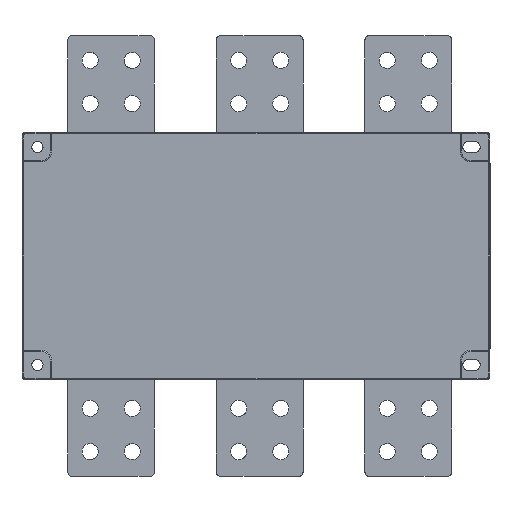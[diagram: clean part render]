
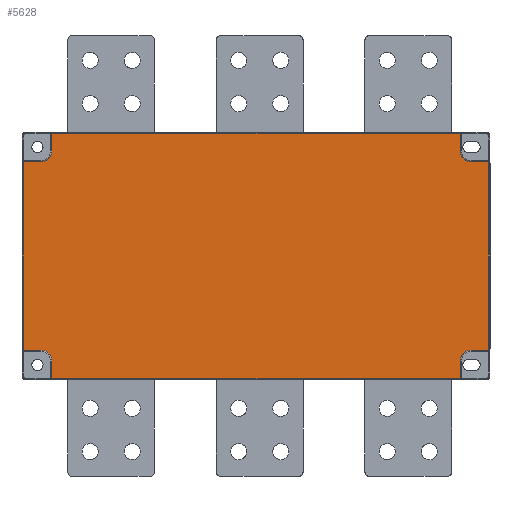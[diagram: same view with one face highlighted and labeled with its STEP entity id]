
A CAD part, front view. The second image highlights one B-rep face of the part: STEP entity #5628.
In plain terms, the highlighted planar face has unit normal (0, -1, 0).
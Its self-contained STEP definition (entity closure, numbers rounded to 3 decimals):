
#2423=DIRECTION('',(0.,0.,1.));
#2424=VECTOR('',#2423,14.);
#2425=CARTESIAN_POINT('',(-165.,0.,-99.));
#2426=LINE('',#2425,#2424);
#2427=CARTESIAN_POINT('',(-174.,0.,-85.));
#2428=DIRECTION('',(0.,-1.,0.));
#2429=DIRECTION('',(1.,0.,0.));
#2430=AXIS2_PLACEMENT_3D('',#2427,#2428,#2429);
#2432=DIRECTION('',(1.,0.,0.));
#2433=VECTOR('',#2432,14.);
#2434=CARTESIAN_POINT('',(-188.,0.,76.));
#2435=LINE('',#2434,#2433);
#2436=CARTESIAN_POINT('',(-174.,0.,85.));
#2437=DIRECTION('',(0.,-1.,0.));
#2438=DIRECTION('',(0.,0.,-1.));
#2439=AXIS2_PLACEMENT_3D('',#2436,#2437,#2438);
#2441=DIRECTION('',(0.,0.,-1.));
#2442=VECTOR('',#2441,14.);
#2443=CARTESIAN_POINT('',(165.,0.,99.));
#2444=LINE('',#2443,#2442);
#2445=CARTESIAN_POINT('',(174.,0.,85.));
#2446=DIRECTION('',(0.,-1.,0.));
#2447=DIRECTION('',(-1.,0.,0.));
#2448=AXIS2_PLACEMENT_3D('',#2445,#2446,#2447);
#2450=DIRECTION('',(-1.,0.,0.));
#2451=VECTOR('',#2450,14.);
#2452=CARTESIAN_POINT('',(188.,0.,-76.));
#2453=LINE('',#2452,#2451);
#2454=CARTESIAN_POINT('',(174.,0.,-85.));
#2455=DIRECTION('',(0.,-1.,0.));
#2456=DIRECTION('',(0.,0.,1.));
#2457=AXIS2_PLACEMENT_3D('',#2454,#2455,#2456);
#2471=DIRECTION('',(1.,0.,0.));
#2472=VECTOR('',#2471,330.);
#2473=CARTESIAN_POINT('',(-165.,0.,-99.));
#2474=LINE('',#2473,#2472);
#3839=DIRECTION('',(-1.,0.,0.));
#3840=VECTOR('',#3839,14.);
#3841=CARTESIAN_POINT('',(188.,0.,76.));
#3842=LINE('',#3841,#3840);
#3863=DIRECTION('',(0.,0.,1.));
#3864=VECTOR('',#3863,152.);
#3865=CARTESIAN_POINT('',(188.,0.,-76.));
#3866=LINE('',#3865,#3864);
#3929=DIRECTION('',(0.,0.,1.));
#3930=VECTOR('',#3929,14.);
#3931=CARTESIAN_POINT('',(165.,0.,-99.));
#3932=LINE('',#3931,#3930);
#4290=DIRECTION('',(-1.,0.,0.));
#4291=VECTOR('',#4290,330.);
#4292=CARTESIAN_POINT('',(165.,0.,99.));
#4293=LINE('',#4292,#4291);
#4310=DIRECTION('',(0.,0.,-1.));
#4311=VECTOR('',#4310,14.);
#4312=CARTESIAN_POINT('',(-165.,0.,99.));
#4313=LINE('',#4312,#4311);
#4388=DIRECTION('',(0.,0.,-1.));
#4389=VECTOR('',#4388,152.);
#4390=CARTESIAN_POINT('',(-188.,0.,76.));
#4391=LINE('',#4390,#4389);
#4408=DIRECTION('',(1.,0.,0.));
#4409=VECTOR('',#4408,14.);
#4410=CARTESIAN_POINT('',(-188.,0.,-76.));
#4411=LINE('',#4410,#4409);
#4887=CARTESIAN_POINT('',(-165.,0.,-99.));
#4888=CARTESIAN_POINT('',(165.,0.,-99.));
#4889=VERTEX_POINT('',#4887);
#4890=VERTEX_POINT('',#4888);
#4891=CARTESIAN_POINT('',(-165.,0.,-85.));
#4892=VERTEX_POINT('',#4891);
#4893=CARTESIAN_POINT('',(-174.,0.,-76.));
#4894=VERTEX_POINT('',#4893);
#4895=CARTESIAN_POINT('',(-188.,0.,-76.));
#4896=VERTEX_POINT('',#4895);
#4897=CARTESIAN_POINT('',(-188.,0.,76.));
#4898=VERTEX_POINT('',#4897);
#4899=CARTESIAN_POINT('',(-174.,0.,76.));
#4900=VERTEX_POINT('',#4899);
#4901=CARTESIAN_POINT('',(-165.,0.,85.));
#4902=VERTEX_POINT('',#4901);
#4903=CARTESIAN_POINT('',(-165.,0.,99.));
#4904=VERTEX_POINT('',#4903);
#4905=CARTESIAN_POINT('',(165.,0.,99.));
#4906=VERTEX_POINT('',#4905);
#4907=CARTESIAN_POINT('',(165.,0.,85.));
#4908=VERTEX_POINT('',#4907);
#4909=CARTESIAN_POINT('',(174.,0.,76.));
#4910=VERTEX_POINT('',#4909);
#4911=CARTESIAN_POINT('',(188.,0.,76.));
#4912=VERTEX_POINT('',#4911);
#4913=CARTESIAN_POINT('',(188.,0.,-76.));
#4914=VERTEX_POINT('',#4913);
#4915=CARTESIAN_POINT('',(174.,0.,-76.));
#4916=VERTEX_POINT('',#4915);
#4917=CARTESIAN_POINT('',(165.,0.,-85.));
#4918=VERTEX_POINT('',#4917);
#5589=CARTESIAN_POINT('',(0.,0.,0.));
#5590=DIRECTION('',(0.,1.,0.));
#5591=DIRECTION('',(1.,0.,0.));
#5592=AXIS2_PLACEMENT_3D('',#5589,#5590,#5591);
#5593=PLANE('',#5592);
#5595=ORIENTED_EDGE('',*,*,#5594,.F.);
#5597=ORIENTED_EDGE('',*,*,#5596,.T.);
#5599=ORIENTED_EDGE('',*,*,#5598,.T.);
#5601=ORIENTED_EDGE('',*,*,#5600,.F.);
#5603=ORIENTED_EDGE('',*,*,#5602,.F.);
#5605=ORIENTED_EDGE('',*,*,#5604,.T.);
#5607=ORIENTED_EDGE('',*,*,#5606,.T.);
#5609=ORIENTED_EDGE('',*,*,#5608,.F.);
#5611=ORIENTED_EDGE('',*,*,#5610,.F.);
#5613=ORIENTED_EDGE('',*,*,#5612,.T.);
#5615=ORIENTED_EDGE('',*,*,#5614,.T.);
#5617=ORIENTED_EDGE('',*,*,#5616,.F.);
#5619=ORIENTED_EDGE('',*,*,#5618,.F.);
#5621=ORIENTED_EDGE('',*,*,#5620,.T.);
#5623=ORIENTED_EDGE('',*,*,#5622,.T.);
#5625=ORIENTED_EDGE('',*,*,#5624,.F.);
#5626=EDGE_LOOP('',(#5595,#5597,#5599,#5601,#5603,#5605,#5607,#5609,#5611,#5613,
#5615,#5617,#5619,#5621,#5623,#5625));
#5627=FACE_OUTER_BOUND('',#5626,.F.);
#2431=CIRCLE('',#2430,9.);
#2440=CIRCLE('',#2439,9.);
#2449=CIRCLE('',#2448,9.);
#2458=CIRCLE('',#2457,9.);
#5594=EDGE_CURVE('',#4889,#4890,#2474,.T.);
#5596=EDGE_CURVE('',#4889,#4892,#2426,.T.);
#5598=EDGE_CURVE('',#4892,#4894,#2431,.T.);
#5600=EDGE_CURVE('',#4896,#4894,#4411,.T.);
#5602=EDGE_CURVE('',#4898,#4896,#4391,.T.);
#5604=EDGE_CURVE('',#4898,#4900,#2435,.T.);
#5606=EDGE_CURVE('',#4900,#4902,#2440,.T.);
#5608=EDGE_CURVE('',#4904,#4902,#4313,.T.);
#5610=EDGE_CURVE('',#4906,#4904,#4293,.T.);
#5612=EDGE_CURVE('',#4906,#4908,#2444,.T.);
#5614=EDGE_CURVE('',#4908,#4910,#2449,.T.);
#5616=EDGE_CURVE('',#4912,#4910,#3842,.T.);
#5618=EDGE_CURVE('',#4914,#4912,#3866,.T.);
#5620=EDGE_CURVE('',#4914,#4916,#2453,.T.);
#5622=EDGE_CURVE('',#4916,#4918,#2458,.T.);
#5624=EDGE_CURVE('',#4890,#4918,#3932,.T.);
#5628=ADVANCED_FACE('',(#5627),#5593,.F.);
